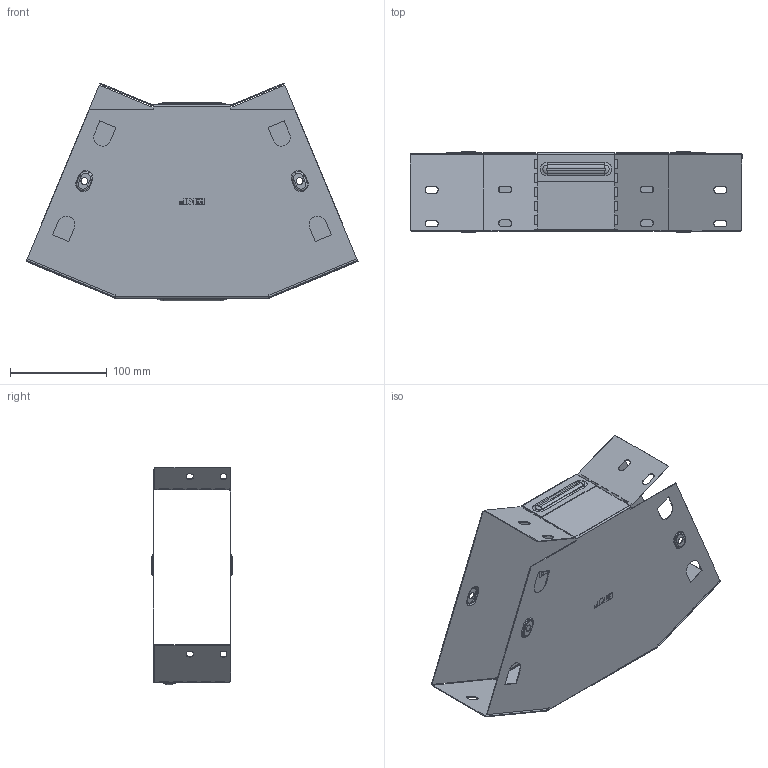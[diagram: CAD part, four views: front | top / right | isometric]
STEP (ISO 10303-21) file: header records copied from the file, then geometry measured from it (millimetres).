
FILE_DESCRIPTION (( 'STEP AP214' ), '1' );
FILE_NAME ('g4580200_捘.STEP', '2019-06-10T08:34:14', ( '砐錪賧瘔蠈錪 Windows' ), ( '' ), 'SwSTEP 2.0', 'SolidWorks 2018', '' );
FILE_SCHEMA (( 'AUTOMOTIVE_DESIGN' ));
Length unit declared in the file: millimetre
Products named in the file (1): g4580200_捘
Bounding box: 344.03 x 83.8 x 225.7 mm (x, y, z)
Volume: 125299.4 mm3; surface area: 316585 mm2
Topology: 2 solids, 2 shells, 578 faces, 1602 edges, 1016 vertices
Faces by surface type: plane 326, cylinder 170, torus 64, bspline 18
Entity records: 19374 total; most frequent: CARTESIAN_POINT 4216, ORIENTED_EDGE 3204, DIRECTION 3124, EDGE_CURVE 1602, LINE 1130, VECTOR 1130, VERTEX_POINT 1016, AXIS2_PLACEMENT_3D 997
